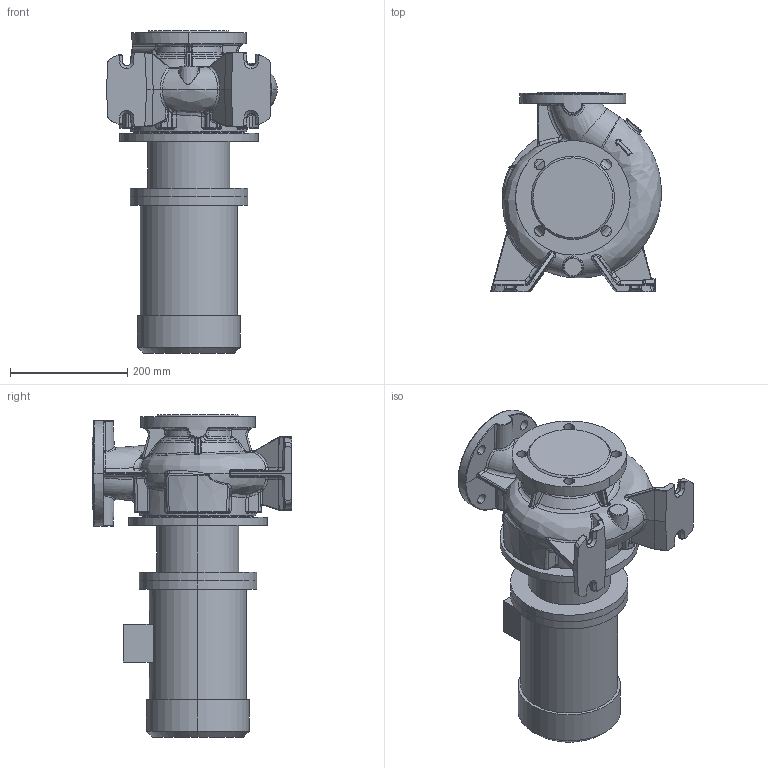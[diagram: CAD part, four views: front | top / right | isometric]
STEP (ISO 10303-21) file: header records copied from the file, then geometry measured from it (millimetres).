
FILE_DESCRIPTION (( 'STEP AP203' ), '1' );
FILE_NAME ('KRM 80-65-125-4-1,1.STEP', '2026-05-07T12:50:02', ( '' ), ( '' ), 'SwSTEP 2.0', 'SolidWorks 2016', '' );
FILE_SCHEMA (( 'CONFIG_CONTROL_DESIGN' ));
Length unit declared in the file: millimetre
Products named in the file (1): KRM 80-65-125-4-1,1
Bounding box: 290.71 x 340 x 548.8 mm (x, y, z)
Volume: 16638474.5 mm3; surface area: 875598.8 mm2
Topology: 4 solids, 4 shells, 985 faces, 2345 edges, 1370 vertices
Faces by surface type: bspline 488, cylinder 217, plane 143, cone 67, torus 63, sphere 7
Entity records: 57822 total; most frequent: CARTESIAN_POINT 38979, ORIENTED_EDGE 4650, DIRECTION 3017, EDGE_CURVE 2325, VERTEX_POINT 1370, AXIS2_PLACEMENT_3D 1287, EDGE_LOOP 1023, FACE_OUTER_BOUND 985
